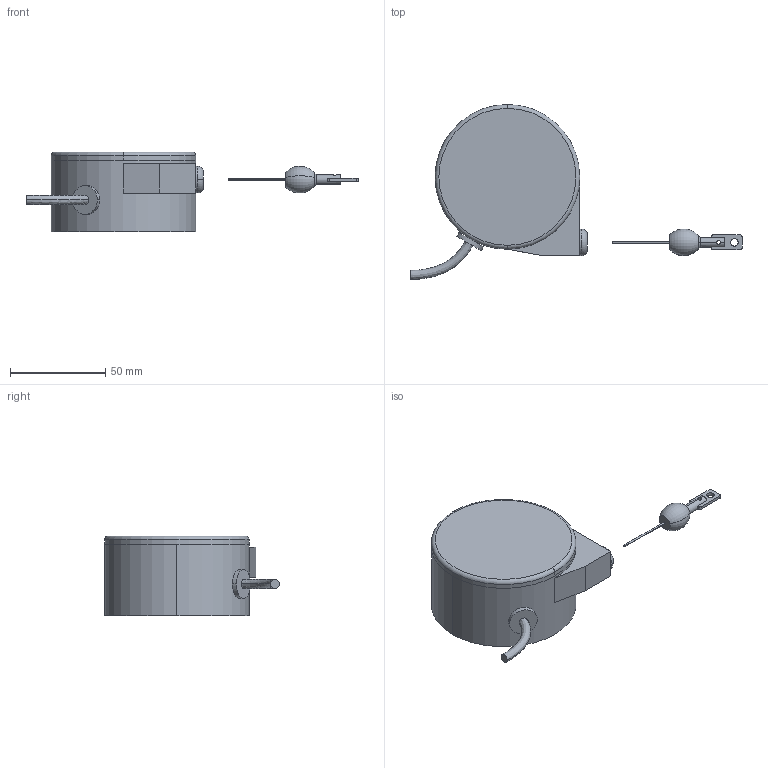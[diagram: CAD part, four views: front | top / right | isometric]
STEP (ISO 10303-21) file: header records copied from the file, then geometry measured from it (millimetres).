
FILE_DESCRIPTION (( 'STEP AP214' ), '1' );
FILE_NAME ('D-540_D-5400_Assem1.STEP', '2024-07-18T02:19:48', ( '' ), ( '' ), 'SwSTEP 2.0', 'SolidWorks 2023', '' );
FILE_SCHEMA (( 'AUTOMOTIVE_DESIGN' ));
Length unit declared in the file: millimetre
Products named in the file (5): D-540_D-5400_Assem1; D-540_D-5400_Part1_1; D-540_D-5400_Part1; D-540_D-5400_Part3; D-540_D-5400_Part2
Assembly tree (4 placements, depth 2):
  D-540_D-5400_Assem1
    D-540_D-5400_Part1
    D-540_D-5400_Part2
    D-540_D-5400_Part3
    D-540_D-5400_Part1_1
Bounding box: 174.43 x 91.87 x 42 mm (x, y, z)
Volume: 200377.5 mm3; surface area: 31848.7 mm2
Topology: 6 solids, 6 shells, 74 faces, 159 edges, 102 vertices
Faces by surface type: cylinder 32, plane 32, torus 8, bspline 2
Entity records: 2359 total; most frequent: CARTESIAN_POINT 502, DIRECTION 399, ORIENTED_EDGE 318, AXIS2_PLACEMENT_3D 167, EDGE_CURVE 159, VERTEX_POINT 102, CIRCLE 88, EDGE_LOOP 85
